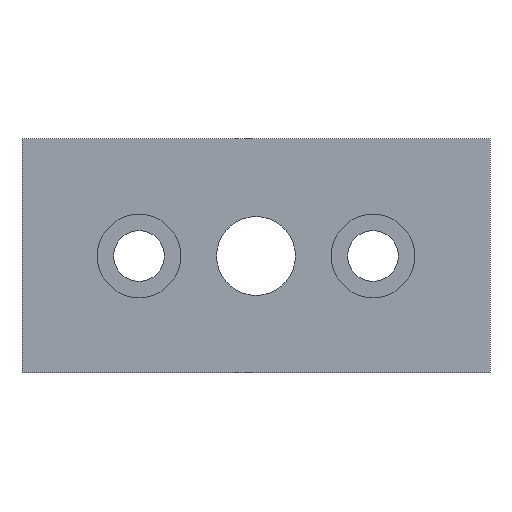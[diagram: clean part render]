
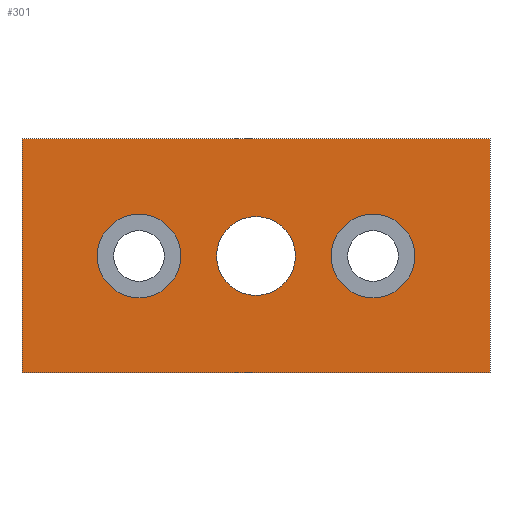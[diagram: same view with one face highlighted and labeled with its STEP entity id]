
A CAD part, front view. The second image highlights one B-rep face of the part: STEP entity #301.
In plain terms, the highlighted planar face has unit normal (0, -1, 0).
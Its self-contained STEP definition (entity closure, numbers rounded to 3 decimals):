
#28=CIRCLE('',#323,5.053);
#29=CIRCLE('',#324,5.35);
#30=CIRCLE('',#325,5.35);
#58=ORIENTED_EDGE('',*,*,#94,.T.);
#59=ORIENTED_EDGE('',*,*,#95,.T.);
#60=ORIENTED_EDGE('',*,*,#96,.T.);
#61=ORIENTED_EDGE('',*,*,#79,.T.);
#62=ORIENTED_EDGE('',*,*,#83,.T.);
#63=ORIENTED_EDGE('',*,*,#86,.T.);
#64=ORIENTED_EDGE('',*,*,#89,.T.);
#79=EDGE_CURVE('',#101,#102,#119,.T.);
#83=EDGE_CURVE('',#102,#105,#123,.T.);
#86=EDGE_CURVE('',#105,#107,#126,.T.);
#89=EDGE_CURVE('',#107,#101,#129,.T.);
#94=EDGE_CURVE('',#112,#112,#28,.T.);
#95=EDGE_CURVE('',#113,#113,#29,.T.);
#96=EDGE_CURVE('',#114,#114,#30,.T.);
#101=VERTEX_POINT('',#400);
#102=VERTEX_POINT('',#401);
#105=VERTEX_POINT('',#409);
#107=VERTEX_POINT('',#415);
#112=VERTEX_POINT('',#431);
#113=VERTEX_POINT('',#433);
#114=VERTEX_POINT('',#435);
#119=LINE('',#399,#131);
#123=LINE('',#408,#135);
#126=LINE('',#414,#138);
#129=LINE('',#420,#141);
#131=VECTOR('',#341,1000.);
#135=VECTOR('',#347,1000.);
#138=VECTOR('',#352,1000.);
#141=VECTOR('',#357,1000.);
#151=EDGE_LOOP('',(#58));
#152=EDGE_LOOP('',(#59));
#153=EDGE_LOOP('',(#60));
#154=EDGE_LOOP('',(#61,#62,#63,#64));
#177=FACE_BOUND('',#151,.T.);
#178=FACE_BOUND('',#152,.T.);
#179=FACE_BOUND('',#153,.T.);
#180=FACE_BOUND('',#154,.T.);
#200=PLANE('',#322);
#301=ADVANCED_FACE('',(#177,#178,#179,#180),#200,.T.);
#322=AXIS2_PLACEMENT_3D('',#429,#367,#368);
#323=AXIS2_PLACEMENT_3D('',#430,#369,#370);
#324=AXIS2_PLACEMENT_3D('',#432,#371,#372);
#325=AXIS2_PLACEMENT_3D('',#434,#373,#374);
#341=DIRECTION('',(0.,0.,1.));
#347=DIRECTION('',(-1.,0.,0.));
#352=DIRECTION('',(0.,0.,-1.));
#357=DIRECTION('',(1.,0.,0.));
#367=DIRECTION('',(0.,-1.,0.));
#368=DIRECTION('',(0.,0.,-1.));
#369=DIRECTION('',(0.,1.,0.));
#370=DIRECTION('',(0.,0.,-1.));
#371=DIRECTION('',(0.,1.,0.));
#372=DIRECTION('',(0.,0.,-1.));
#373=DIRECTION('',(0.,1.,0.));
#374=DIRECTION('',(0.,0.,-1.));
#399=CARTESIAN_POINT('',(30.,0.,-15.));
#400=CARTESIAN_POINT('',(30.,0.,-15.));
#401=CARTESIAN_POINT('',(30.,0.,15.));
#408=CARTESIAN_POINT('',(30.,0.,15.));
#409=CARTESIAN_POINT('',(-30.,0.,15.));
#414=CARTESIAN_POINT('',(-30.,0.,15.));
#415=CARTESIAN_POINT('',(-30.,0.,-15.));
#420=CARTESIAN_POINT('',(-30.,0.,-15.));
#429=CARTESIAN_POINT('',(0.,0.,0.));
#430=CARTESIAN_POINT('',(0.,0.,0.));
#431=CARTESIAN_POINT('',(0.,0.,-5.053));
#432=CARTESIAN_POINT('',(15.,0.,0.));
#433=CARTESIAN_POINT('',(15.,0.,-5.35));
#434=CARTESIAN_POINT('',(-15.,0.,0.));
#435=CARTESIAN_POINT('',(-15.,0.,-5.35));
